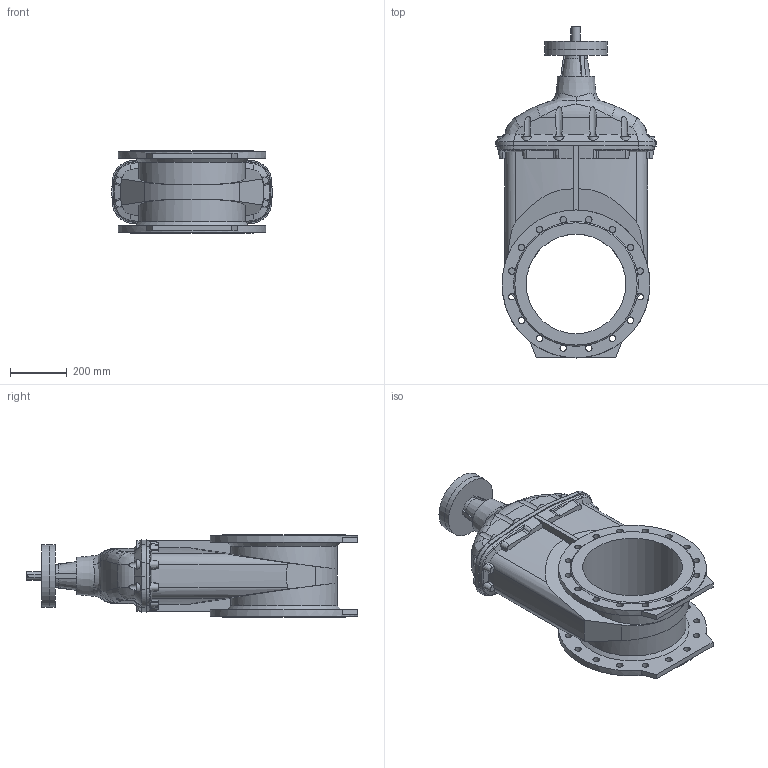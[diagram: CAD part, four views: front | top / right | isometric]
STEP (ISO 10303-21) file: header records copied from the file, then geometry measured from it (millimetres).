
FILE_DESCRIPTION (( 'STEP AP203' ), '1' );
FILE_NAME ('O_15_40_DN350_X0X_AA0.step', '2017-03-10T08:02:00', ( 'Windows User' ), ( 'AVK' ), 'SwSTEP 2.0', 'SolidWorks 2012', '' );
FILE_SCHEMA (( 'CONFIG_CONTROL_DESIGN' ));
Length unit declared in the file: millimetre
Products named in the file (1): O_15_40_DN350_X0X_AA0
Bounding box: 564 x 1167 x 290 mm (x, y, z)
Volume: 58207044.3 mm3; surface area: 2060212.3 mm2
Topology: 1 solids, 1 shells, 357 faces, 1071 edges, 698 vertices
Faces by surface type: plane 113, cone 88, cylinder 74, bspline 51, torus 31
Full cylindrical faces by diameter (mm): 18 x4, 23 x32, 30 x1, 220 x2, 350 x1, 520 x2
Entity records: 18968 total; most frequent: CARTESIAN_POINT 10290, ORIENTED_EDGE 1966, DIRECTION 1547, EDGE_CURVE 983, AXIS2_PLACEMENT_3D 661, VERTEX_POINT 656, EDGE_LOOP 451, FACE_OUTER_BOUND 399
